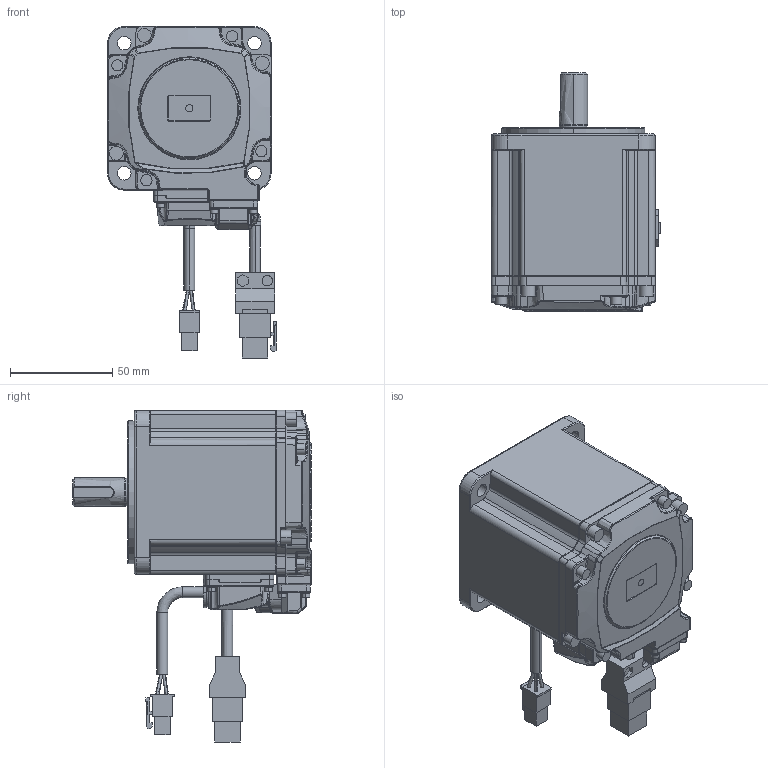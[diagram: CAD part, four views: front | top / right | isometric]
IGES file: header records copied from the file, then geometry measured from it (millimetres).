
Start section:  PTC IGES file: ECM-B3M-C20804R71.igs
Global section: file name: ECM-B3M-C20804R71.igs; native system: Creo Parametric by PTC Inc.; preprocessor: 2015080; author: MIO.CHEN; organization: Unknown; date: 20190524.160008; units: millimetre
Bounding box: 83.11 x 116.65 x 162.4 mm (x, y, z)
Volume: 527330 mm3; surface area: 58365.2 mm2
Topology: 1 solids, 1 shells, 1203 faces, 2966 edges, 1814 vertices
Faces by surface type: bspline 618, revolution 585
